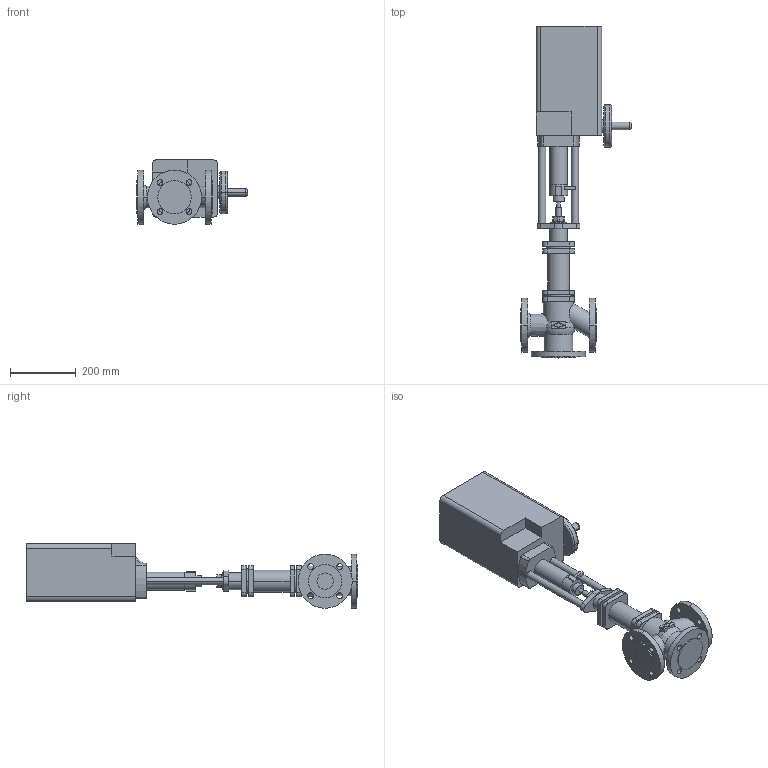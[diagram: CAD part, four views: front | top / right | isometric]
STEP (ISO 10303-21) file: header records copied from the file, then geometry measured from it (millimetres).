
FILE_DESCRIPTION(('OneSpaceDesigner STEP Export'),'2;1');
FILE_NAME('c000002464.stp','2006-09-21T11:57:12',(''),(''),'OneSpace Designer STEP processor for AP214 (Solid Model)','OneSpace Designer 13.20A 18-Aug-2005 (C) CoCreate Software GmbH','');
FILE_SCHEMA(('AUTOMOTIVE_DESIGN { 1 0 10303 214 1 1 1 1 }'));
Length unit declared in the file: millimetre
Products named in the file (2): 1; 2
Bounding box: 336.6 x 1012 x 196.5 mm (x, y, z)
Volume: 16355505.4 mm3; surface area: 751016.5 mm2
Topology: 2 solids, 2 shells, 240 faces, 595 edges, 394 vertices
Faces by surface type: cylinder 114, plane 110, torus 12, cone 4
Entity records: 6828 total; most frequent: CARTESIAN_POINT 1357, ORIENTED_EDGE 1190, DIRECTION 1043, EDGE_CURVE 595, VERTEX_POINT 394, AXIS2_PLACEMENT_3D 368, VECTOR 307, LINE 307
